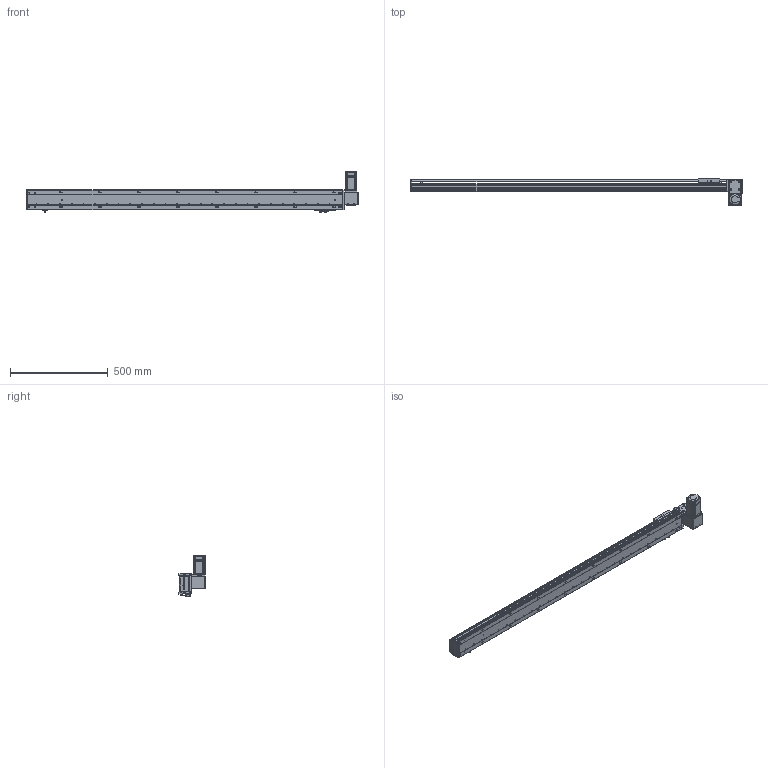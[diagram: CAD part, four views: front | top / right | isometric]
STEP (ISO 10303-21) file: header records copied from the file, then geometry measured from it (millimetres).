
FILE_DESCRIPTION (( 'STEP AP203' ), '1' );
FILE_NAME ('RY100-T-300-DR.SLDASM_1400.step', '2024-04-25T03:23:31', ( '盈信电脑' ), ( '东莞市道滘镇水果街19号' ), 'SwSTEP 2.0', 'SolidWorks 2016', '' );
FILE_SCHEMA (( 'CONFIG_CONTROL_DESIGN' ));
Length unit declared in the file: millimetre
Products named in the file (16): RY100-T-300-RK倰第菁釱_1400; RY100-T肮祭謫翋盓傅釱; RY100-T翋肮祭謫裔啣2; RY100-T粣創揤踡裔; RY100-T左右折电机安装板; 覜茼ん672; RY100綴裔啣; RY100-T-300-DR.SLDASM_1400; RY100俋离覜茼え; 滅袉蝶18-10; RY100-T-300-RK倰第奻裔_1400; 侂狟200W萇儂; RY100-T翋肮祭謫裔啣; RY80-T肮祭謫狟殏俋欶; 1; RY100-T肮祭謫臏賑輸
Assembly tree (19 placements, depth 3):
  RY100-T-300-DR.SLDASM_1400
    RY100-T-300-RK倰第菁釱_1400
    RY100-T-300-RK倰第奻裔_1400
    RY100-T肮祭謫臏賑輸
    RY100綴裔啣
    覜茼ん672  x3
    RY100俋离覜茼え
    RY100-T肮祭謫翋盓傅釱
    RY100-T左右折电机安装板
    侂狟200W萇儂
      1
    RY100-T粣創揤踡裔
    滅袉蝶18-10  x2
    RY100-T翋肮祭謫裔啣2  x2
    RY100-T翋肮祭謫裔啣
    RY80-T肮祭謫狟殏俋欶
Bounding box: 1700 x 135.5 x 209.7 mm (x, y, z)
Volume: 3281771 mm3; surface area: 1377142.5 mm2
Topology: 18 solids, 18 shells, 2255 faces, 6276 edges, 4078 vertices
Faces by surface type: plane 1217, cylinder 827, cone 133, bspline 78
Entity records: 72387 total; most frequent: CARTESIAN_POINT 17418, ORIENTED_EDGE 11288, DIRECTION 10768, EDGE_CURVE 5644, VERTEX_POINT 3714, VECTOR 3630, LINE 3630, AXIS2_PLACEMENT_3D 3569
